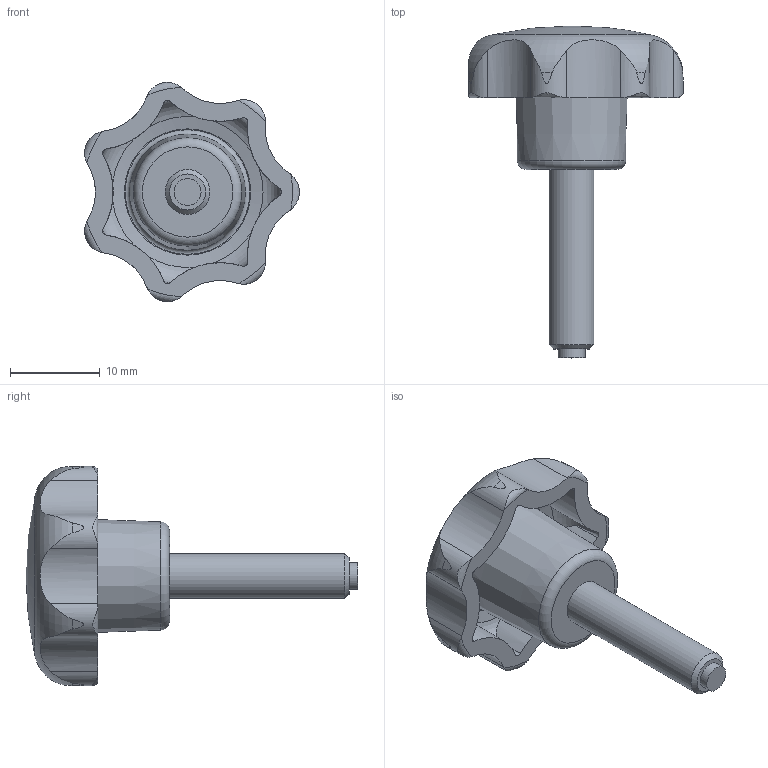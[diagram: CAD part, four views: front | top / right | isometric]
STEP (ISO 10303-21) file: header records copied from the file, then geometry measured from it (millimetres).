
FILE_DESCRIPTION( ( 'STEP AP203' ), '1' );
FILE_NAME( 'C:/Temp/Ganter_Step_05_03_2020/data/2_2/gn6336_10/Star knob GN 6336.10-25-M5-20-KU.stp', '2020-03-05T12:04:19', ( 'License CC BY-ND 4.0' ), ( 'CADENAS' ), ' ', 'PARTsolutions', ' ' );
FILE_SCHEMA( ( 'CONFIG_CONTROL_DESIGN' ) );
Length unit declared in the file: millimetre
Products named in the file (1): _Star knob GN 6336.10-25-M5-20-KU
Bounding box: 23.93 x 37 x 24.42 mm (x, y, z)
Volume: 3502.3 mm3; surface area: 2375 mm2
Topology: 1 solids, 1 shells, 70 faces, 194 edges, 128 vertices
Faces by surface type: cylinder 30, torus 18, cone 17, plane 4, sphere 1
Full cylindrical faces by diameter (mm): 3 x1, 5 x1
Entity records: 3018 total; most frequent: CARTESIAN_POINT 1333, ORIENTED_EDGE 358, DIRECTION 318, EDGE_CURVE 179, AXIS2_PLACEMENT_3D 145, VERTEX_POINT 124, EDGE_LOOP 82, B_SPLINE_CURVE_WITH_KNOTS 77
